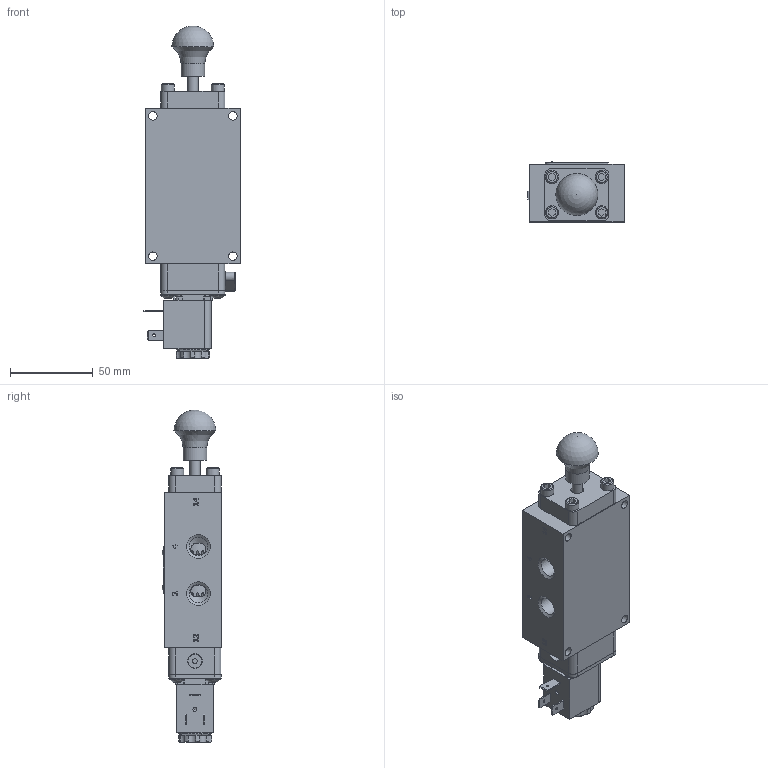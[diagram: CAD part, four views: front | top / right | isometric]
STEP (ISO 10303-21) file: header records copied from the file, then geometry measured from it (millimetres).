
FILE_DESCRIPTION(/* description */ (''),/* implementation_level */ '2;1');
FILE_NAME(/* name */ 'ESO2OOSZ.stp',/* time_stamp */ '2026-07-20T08:49:47-04:00',/* author */ ('rmckenna'),/* organization */ (''),/* preprocessor_version */ 'ST-DEVELOPER v20.1',/* originating_system */ 'Autodesk Inventor 2026',/* authorisation */ '');
FILE_SCHEMA (('AUTOMOTIVE_DESIGN { 1 0 10303 214 3 1 1 }'));
Products named in the file (1): Part48
Bounding box: 58.17 x 36.27 x 200.97 mm (x, y, z)
Volume: 217465.7 mm3; surface area: 74604.9 mm2
Topology: 1 solids, 30 shells, 1676 faces, 4217 edges, 2672 vertices
Faces by surface type: plane 757, cylinder 420, cone 252, bspline 123, torus 117, sphere 7
Full cylindrical faces by diameter (mm): 1.3 x1, 1.397 x1, 1.5 x2, 1.651 x3, 2.032 x4, 2.07 x2, 2.261 x2, 2.35 x4, 2.464 x1, 2.5 x1, 2.778 x2, 2.8 x1, 3 x4, 3.048 x2, 3.175 x1, 3.4 x1, 3.683 x11, 3.912 x3, 4.191 x2, 4.305 x1, 4.394 x1, 4.826 x8, 4.978 x1, 5.105 x4, 5.15 x4, 5.156 x12, 5.5 x1, 6.35 x4, 6.65 x1, 6.9 x1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
Entity records: 56146 total; most frequent: CARTESIAN_POINT 14326, ORIENTED_EDGE 8398, DIRECTION 8198, EDGE_CURVE 4199, AXIS2_PLACEMENT_3D 3020, VERTEX_POINT 2672, LINE 2158, VECTOR 2158
